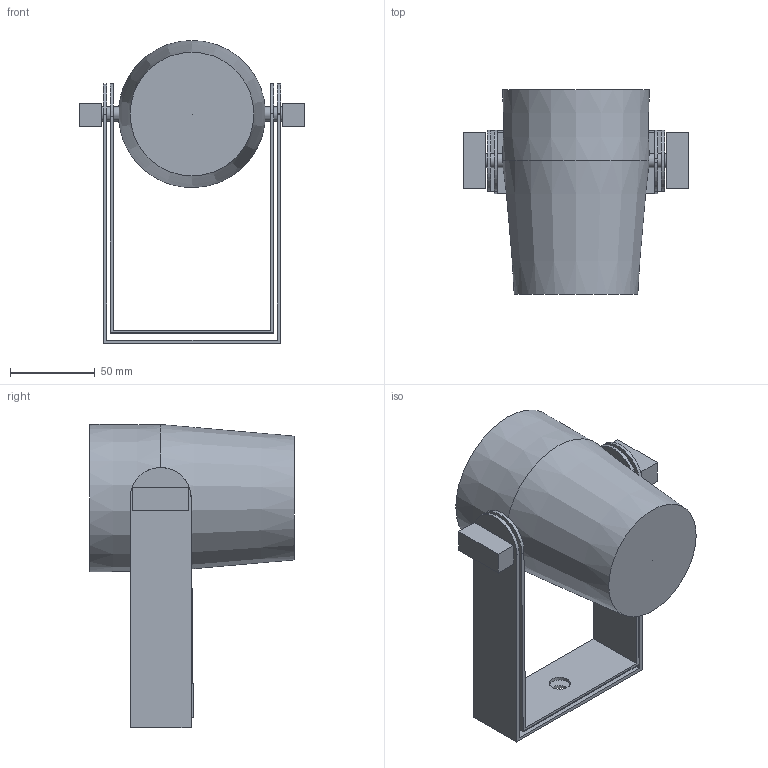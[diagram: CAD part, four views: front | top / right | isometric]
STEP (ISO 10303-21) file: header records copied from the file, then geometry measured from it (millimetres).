
FILE_DESCRIPTION(/* description */ (''),/* implementation_level */ '2;1');
FILE_NAME(/* name */ 'COLORDash Accent 5XIP_90.stp',/* time_stamp */ '2026-07-14T14:54:23-04:00',/* author */ ('chenry'),/* organization */ (''),/* preprocessor_version */ 'ST-DEVELOPER v20',/* originating_system */ 'Autodesk Inventor 2024',/* authorisation */ '');
FILE_SCHEMA (('AUTOMOTIVE_DESIGN { 1 0 10303 214 3 1 1 }'));
Length unit declared in the file: millimetre
Products named in the file (6): CHRUVET-00_ASM; Component129; BRACKET (1); BRACKET; KNOB (1); KNOB
Assembly tree (5 placements, depth 2):
  CHRUVET-00_ASM
    Component129
    BRACKET (1)
    BRACKET
    KNOB (1)
    KNOB
Bounding box: 133.06 x 121 x 179.29 mm (x, y, z)
Volume: 709909.6 mm3; surface area: 106480.8 mm2
Topology: 5 solids, 5 shells, 60 faces, 144 edges, 95 vertices
Faces by surface type: plane 40, cylinder 16, cone 4
Full cylindrical faces by diameter (mm): 8.5 x7, 12.5 x2, 58 x1
Entity records: 2061 total; most frequent: CARTESIAN_POINT 351, DIRECTION 318, ORIENTED_EDGE 286, EDGE_CURVE 143, AXIS2_PLACEMENT_3D 107, LINE 104, VECTOR 104, VERTEX_POINT 95
